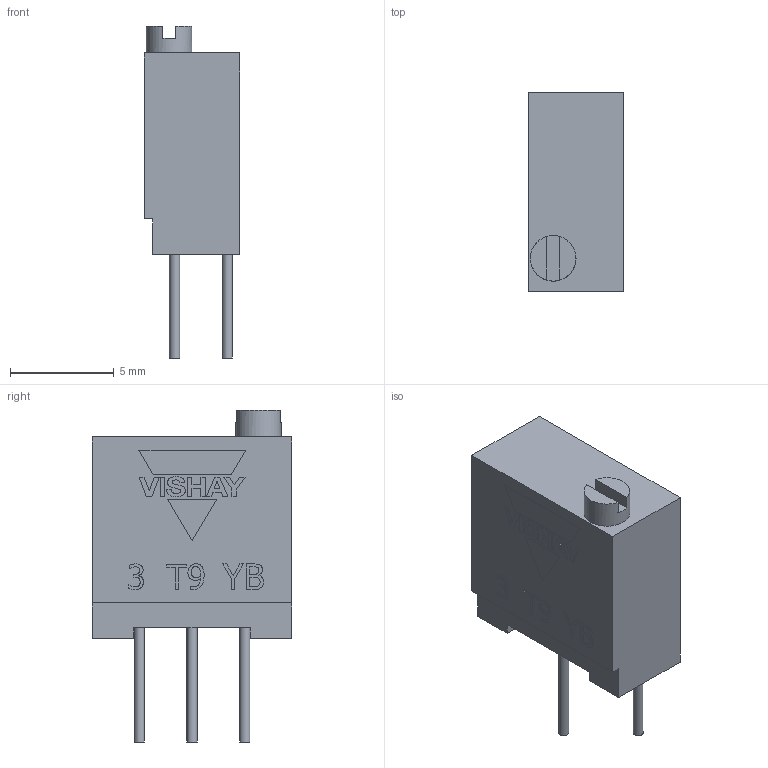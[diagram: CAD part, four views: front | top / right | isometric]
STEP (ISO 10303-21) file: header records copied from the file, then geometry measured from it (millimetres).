
FILE_DESCRIPTION(/* description */ ('Unknown'),/* implementation_level */ '2;1');
FILE_NAME(/* name */ 'T9YB',/* time_stamp */ '2018-01-18T10:55:01+01:00',/* author */ ('Unknown'),/* organization */ ('Unknown'),/* preprocessor_version */ 'ST-DEVELOPER v16.7',/* originating_system */ 'DEX',/* authorisation */ $);
FILE_SCHEMA (('AUTOMOTIVE_DESIGN {1 0 10303 214 3 1 1}'));
Length unit declared in the file: millimetre
Products named in the file (1): Gabarit - T93
Bounding box: 4.6 x 9.6 x 16 mm (x, y, z)
Volume: 417.4 mm3; surface area: 398.4 mm2
Topology: 1 solids, 1 shells, 145 faces, 366 edges, 244 vertices
Faces by surface type: plane 120, bspline 21, cylinder 4
Full cylindrical faces by diameter (mm): 0.5 x3, 2.2 x1
Entity records: 6019 total; most frequent: CARTESIAN_POINT 1965, ORIENTED_EDGE 722, DIRECTION 414, EDGE_CURVE 361, VERTEX_POINT 243, B_SPLINE_CURVE_WITH_KNOTS 208, EDGE_LOOP 170, FACE_BOUND 170
